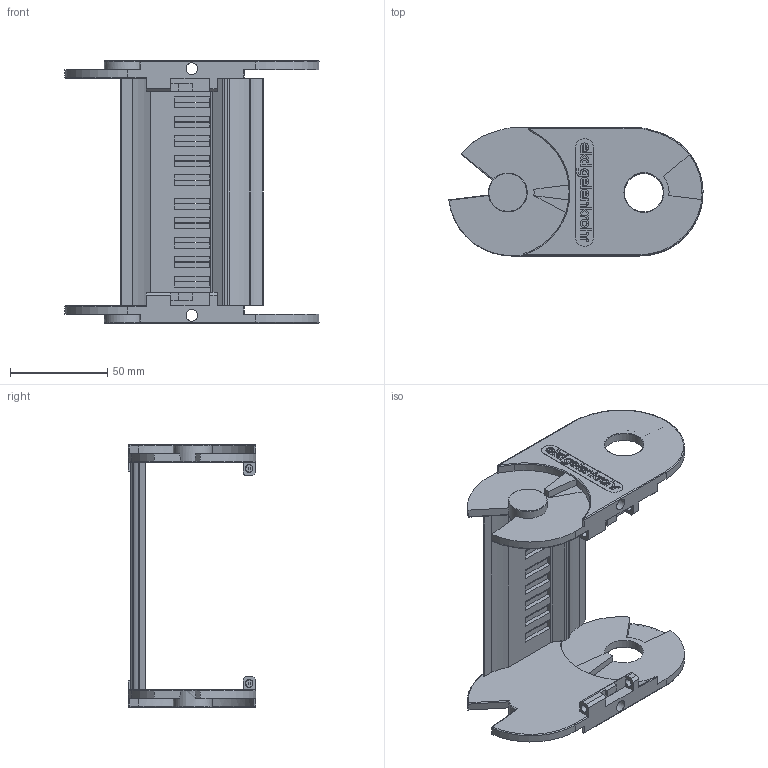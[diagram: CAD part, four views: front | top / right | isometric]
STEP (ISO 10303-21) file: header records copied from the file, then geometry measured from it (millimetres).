
FILE_DESCRIPTION((''),'2;1');
FILE_NAME('C:\Uebbing\PARAMETERKETTEN\KOLIBRI\Kol_65_135_1\Kol_65_135_5 Lasche.stp','2011-11-02T15:09:37',('Uebbing'),(''),'Autodesk Inventor 10','Autodesk Inventor 10','');
FILE_SCHEMA(('AUTOMOTIVE_DESIGN { 1 0 10303 214 1 1 1 1 }'));
Length unit declared in the file: millimetre
Products named in the file (1): Kol_65_135_5 Lasche
Bounding box: 130.76 x 65.7 x 135 mm (x, y, z)
Volume: 94735.1 mm3; surface area: 58670.3 mm2
Topology: 1 solids, 1 shells, 434 faces, 1198 edges, 771 vertices
Faces by surface type: plane 194, bspline 152, cylinder 76, torus 9, sphere 2, cone 1
Full cylindrical faces by diameter (mm): 2.514 x1, 4 x2, 4.414 x1, 6 x1, 20 x2
Entity records: 14484 total; most frequent: CARTESIAN_POINT 3797, ORIENTED_EDGE 2338, DIRECTION 1979, EDGE_CURVE 1169, VECTOR 877, LINE 877, VERTEX_POINT 762, AXIS2_PLACEMENT_3D 551
